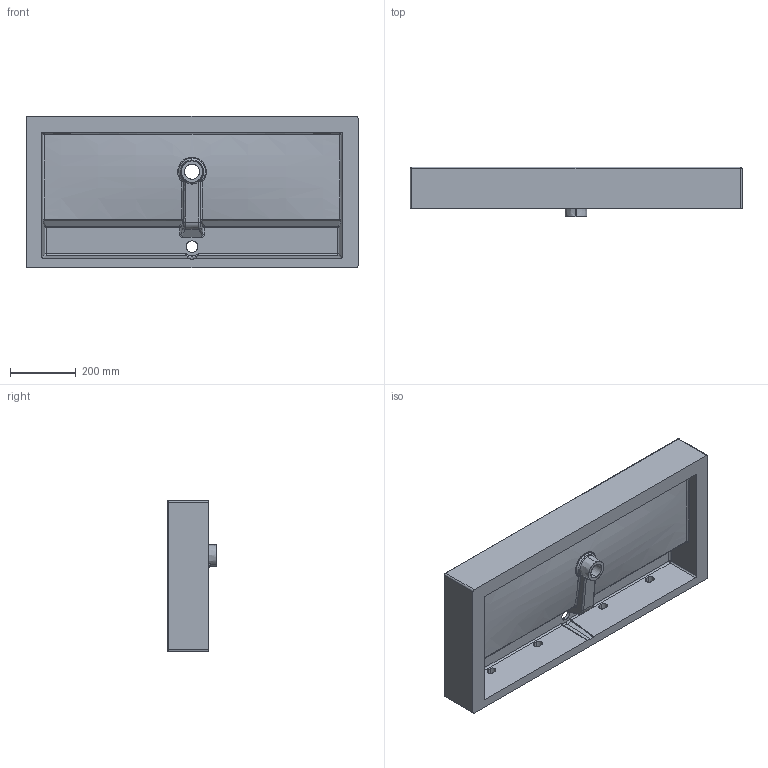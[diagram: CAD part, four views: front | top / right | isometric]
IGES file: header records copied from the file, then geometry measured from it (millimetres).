
Start section: SolidWorks IGES file using analytic representation for surfaces
Global section: file name: \\vmware-host\Shared Folders\Documenti\Lavoro\modifiche Tecla\3D-modifiche\TWENTY 101\PROJECT2017 100.IGS; native system: SolidWorks 2017; preprocessor: SolidWorks 2017; author: silvia; date: 171109.162325; units: millimetre
Bounding box: 1010 x 150 x 460 mm (x, y, z)
Surface area: 1664839.4 mm2 (no closed solid volume)
Topology: 0 solids, 0 shells, 173 faces, 2251 edges, 2241 vertices
Faces by surface type: bspline 89, revolution 84
